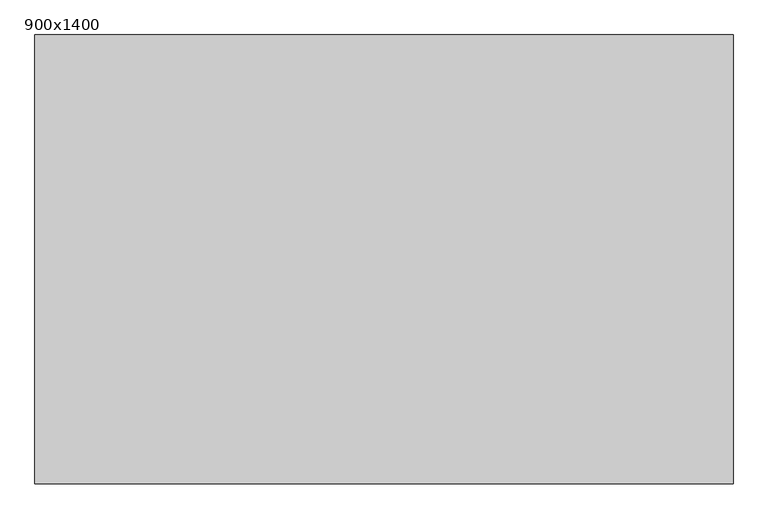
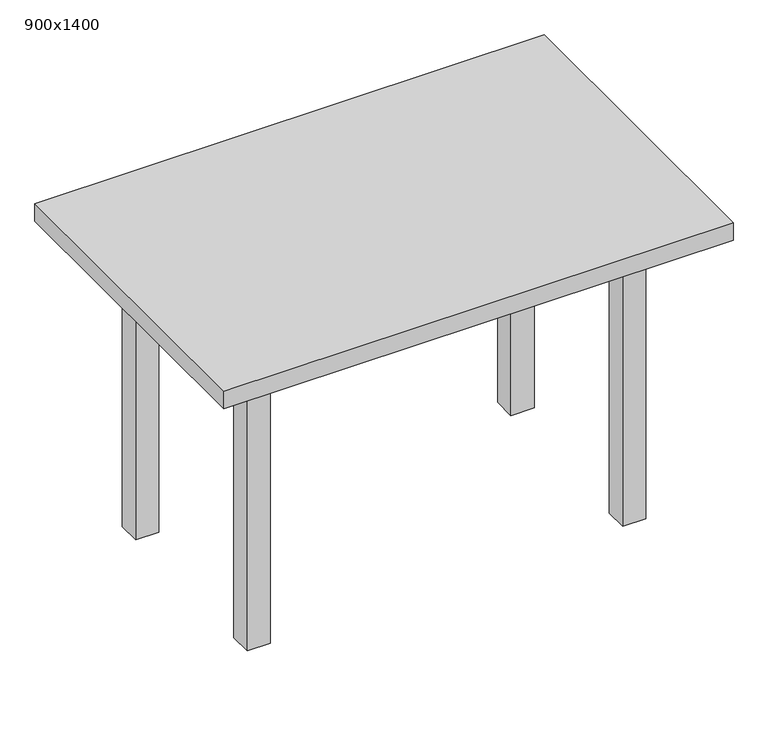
"""IFC4 building model written with IfcOpenShell, lengths in millimetres: furniture geometry, Fu_кухонный стол_LEG : 900x1400."""

from ifc_helpers import new_model, si_unit, frame, origin, origin_with_axes, place, context, project, spatial, polyline, outline, extrude, source, transform, mapped, element, save


def furniture_900x1400_8099c148(model_context):
    return source(origin(), model_context, "Body", "SweptSolid", [
        extrude(outline(polyline([(184.1, 259.5), (184.1, 234.1), (-784.1, 234.1), (-784.1, 259.5), (184.1, 259.5)])), frame((0.0, 0.0, 747.6), z_axis=(0.0, 0.0, 1.0), x_axis=(1.0, 0.0, 0.0)), (0.0, 0.0, 1.0), 101.6),
        extrude(outline(polyline([(184.1, -259.5), (-784.1, -259.5), (-784.1, -234.1), (184.1, -234.1), (184.1, -259.5)])), frame((0.0, 0.0, 747.6), z_axis=(0.0, 0.0, 1.0), x_axis=(1.0, 0.0, 0.0)), (0.0, 0.0, 1.0), 101.6),
        extrude(outline(polyline([(-796.8, -234.1), (-822.2, -234.1), (-822.2, 234.1), (-796.8, 234.1), (-796.8, -234.1)])), frame((0.0, 0.0, 747.6), z_axis=(0.0, 0.0, 1.0), x_axis=(1.0, 0.0, 0.0)), (0.0, 0.0, 1.0), 101.6),
        extrude(outline(polyline([(196.8, -234.1), (196.8, 234.1), (222.2, 234.1), (222.2, -234.1), (196.8, -234.1)])), frame((0.0, 0.0, 747.6), z_axis=(0.0, 0.0, 1.0), x_axis=(1.0, 0.0, 0.0)), (0.0, 0.0, 1.0), 101.6),
        extrude(outline(polyline([(-784.1, 297.6), (-784.1, 234.1), (-847.6, 234.1), (-847.6, 297.6), (-784.1, 297.6)])), origin_with_axes(), (0.0, 0.0, 1.0), 849.2),
        extrude(outline(polyline([(184.1, 297.6), (247.6, 297.6), (247.6, 234.1), (184.1, 234.1), (184.1, 297.6)])), origin_with_axes(), (0.0, 0.0, 1.0), 849.2),
        extrude(outline(polyline([(-784.1, -297.6), (-847.6, -297.6), (-847.6, -234.1), (-784.1, -234.1), (-784.1, -297.6)])), origin_with_axes(), (0.0, 0.0, 1.0), 849.2),
        extrude(outline(polyline([(184.1, -297.6), (184.1, -234.1), (247.6, -234.1), (247.6, -297.6), (184.1, -297.6)])), origin_with_axes(), (0.0, 0.0, 1.0), 849.2),
        extrude(outline(polyline([(400.0, 450.0), (400.0, -450.0), (-1000.0, -450.0), (-1000.0, 450.0), (400.0, 450.0)])), frame((0.0, 0.0, 849.2), z_axis=(0.0, 0.0, 1.0), x_axis=(1.0, 0.0, 0.0)), (0.0, 0.0, 1.0), 50.8),
    ])


if __name__ == "__main__":
    model = new_model("IFC4")
    model_context = context("Model", 3, world=origin())
    ifc_project = project(units=[si_unit("LENGTHUNIT", "METRE", prefix="MILLI")], contexts=[model_context])
    site = spatial("IfcSite", under=ifc_project)
    building = spatial("IfcBuilding", under=site)
    placement = place(None, origin())
    furniture_900x1400_shape = furniture_900x1400_8099c148(model_context)
    element("IfcFurniture", 1, ObjectType="Fu_кухонный стол_LEG : 900x1400", at=placement, inside=building, context=model_context, shape_type="MappedRepresentation", body=[
        mapped(furniture_900x1400_shape, transform((0.0, 0.0, 0.0), x_axis=(1.0, 0.0, 0.0), y_axis=(0.0, 1.0, 0.0), z_axis=(0.0, 0.0, 1.0))),
    ])
    save(model, "model.ifc")
